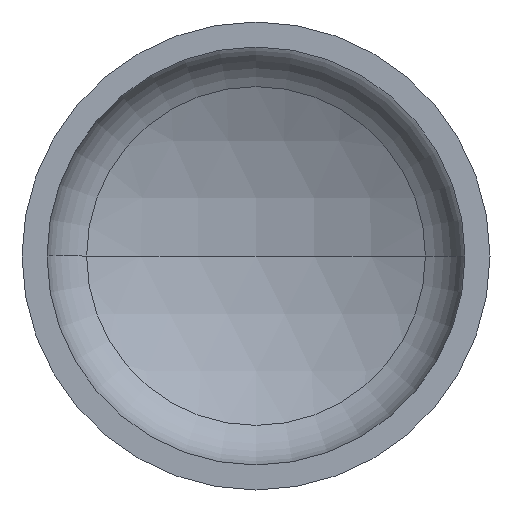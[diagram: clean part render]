
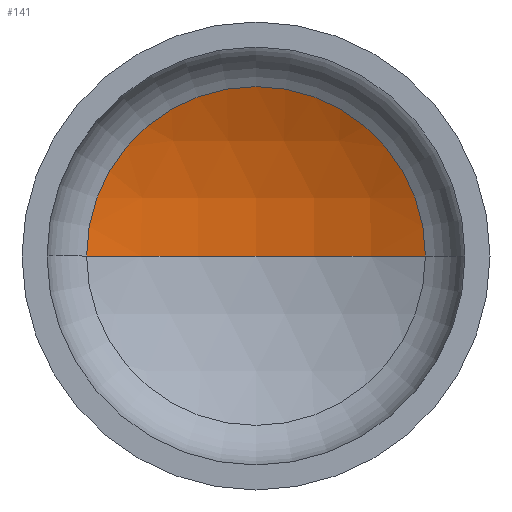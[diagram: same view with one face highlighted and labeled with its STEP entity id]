
A CAD part, front view. The second image highlights one B-rep face of the part: STEP entity #141.
In plain terms, the highlighted spherical face has radius 284 mm.
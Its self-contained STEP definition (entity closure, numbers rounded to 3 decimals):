
#26 = AXIS2_PLACEMENT_3D ( 'NONE', #157, #216, #159 ) ;
#40 = AXIS2_PLACEMENT_3D ( 'NONE', #151, #152, #100 ) ;
#41 = AXIS2_PLACEMENT_3D ( 'NONE', #182, #171, #167 ) ;
#44 = AXIS2_PLACEMENT_3D ( 'NONE', #266, #265, #264 ) ;
#72 = CARTESIAN_POINT ( 'NONE',  ( -128.73, 109.025, 0. ) ) ;
#78 = FACE_OUTER_BOUND ( 'NONE', #360, .T. ) ;
#80 = EDGE_CURVE ( 'NONE', #304, #390, #398, .T. ) ;
#81 = EDGE_CURVE ( 'NONE', #307, #304, #243, .T. ) ;
#82 = EDGE_CURVE ( 'NONE', #307, #390, #174, .T. ) ;
#84 = CARTESIAN_POINT ( 'NONE',  ( 128.73, 109.025, 0. ) ) ;
#100 = DIRECTION ( 'NONE',  ( 1., 0., 0. ) ) ;
#115 = ORIENTED_EDGE ( 'NONE', *, *, #82, .F. ) ;
#117 = CARTESIAN_POINT ( 'NONE',  ( 0., 139.876, 0. ) ) ;
#141 = ADVANCED_FACE ( 'NONE', ( #78 ), #379, .F. ) ;
#151 = CARTESIAN_POINT ( 'NONE',  ( 0., -144.124, 0. ) ) ;
#152 = DIRECTION ( 'NONE',  ( 0., 0., 1. ) ) ;
#157 = CARTESIAN_POINT ( 'NONE',  ( 0., -144.124, 0. ) ) ;
#159 = DIRECTION ( 'NONE',  ( -1., 0., 0. ) ) ;
#167 = DIRECTION ( 'NONE',  ( -1., 0., 0. ) ) ;
#171 = DIRECTION ( 'NONE',  ( 0., 0., -1. ) ) ;
#174 = CIRCLE ( 'NONE', #40, 284. ) ;
#182 = CARTESIAN_POINT ( 'NONE',  ( 0., -144.124, 0. ) ) ;
#216 = DIRECTION ( 'NONE',  ( 0., 0., -1. ) ) ;
#243 = CIRCLE ( 'NONE', #41, 284. ) ;
#264 = DIRECTION ( 'NONE',  ( 1., 0., 0. ) ) ;
#265 = DIRECTION ( 'NONE',  ( 0., -1., 0. ) ) ;
#266 = CARTESIAN_POINT ( 'NONE',  ( 0., 109.025, 0. ) ) ;
#288 = ORIENTED_EDGE ( 'NONE', *, *, #80, .T. ) ;
#304 = VERTEX_POINT ( 'NONE', #84 ) ;
#307 = VERTEX_POINT ( 'NONE', #117 ) ;
#360 = EDGE_LOOP ( 'NONE', ( #115, #399, #288 ) ) ;
#379 = SPHERICAL_SURFACE ( 'NONE', #26, 284. ) ;
#390 = VERTEX_POINT ( 'NONE', #72 ) ;
#398 = CIRCLE ( 'NONE', #44, 128.73 ) ;
#399 = ORIENTED_EDGE ( 'NONE', *, *, #81, .T. ) ;
